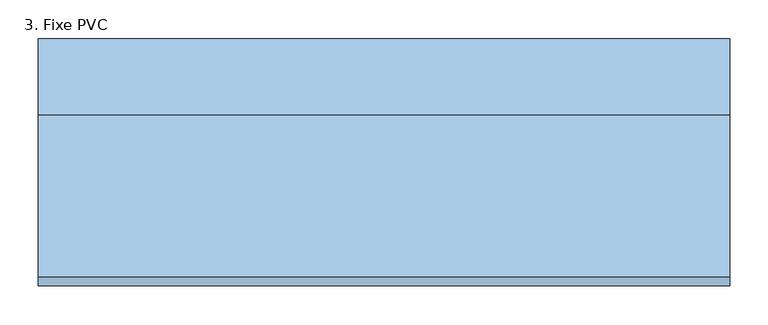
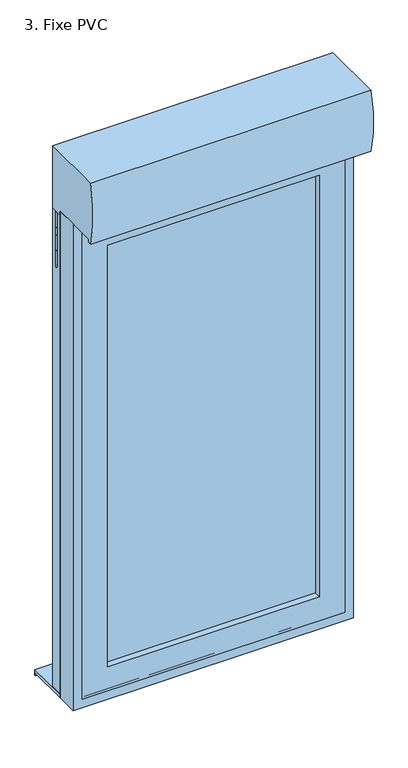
"""IFC4 building model written with IfcOpenShell, lengths in millimetres: window geometry, 3. Fixe PVC : OF3 260X165 (LXH) cm."""

from ifc_helpers import new_model, si_unit, point, frame, frame_2d, origin, place, context, project, spatial, polyline, circle_curve, trimmed, segment, composite_curve, outline, extrude, faceted_brep, source, transform, mapped, element, save


def window_3_fixe_pvc_f0c6ea6f(model_context):
    return source(origin(), model_context, "Body", "SolidModel", [
        faceted_brep([(-450.0, -100.02, 2450.0), (-450.0, -28.9, 2450.0), (-450.0, -28.9, 800.0), (-450.0, -100.02, 800.0), (450.0, -28.9, 2450.0), (450.0, -28.9, 800.0), (-392.0983858, -28.9, 857.9016142), (392.0983858, -28.9, 857.9016142), (392.0983858, -28.9, 2392.0983858), (-392.0983858, -28.9, 2392.0983858), (450.0, -100.02, 800.0), (450.0, -100.02, 2450.0), (-413.424, -100.02, 2413.424), (413.424, -100.02, 2413.424), (413.424, -100.02, 836.576), (-413.424, -100.02, 836.576), (-413.424, -44.648, 2413.424), (-413.424, -44.648, 836.576), (413.424, -44.648, 836.576), (413.424, -44.648, 2413.424), (-392.0983858, -44.648, 2392.0983858), (392.0983858, -44.648, 2392.0983858), (392.0983858, -44.648, 857.9016142), (-392.0983858, -44.648, 857.9016142)], [[[0, 1, 2, 3]], [[1, 4, 5, 2], [6, 7, 8, 9]], [[3, 2, 5, 10]], [[3, 10, 11, 0], [12, 13, 14, 15]], [[16, 12, 15, 17]], [[17, 15, 14, 18]], [[17, 18, 19, 16], [20, 21, 22, 23]], [[9, 20, 23, 6]], [[6, 23, 22, 7]], [[10, 5, 4, 11]], [[18, 14, 13, 19]], [[7, 22, 21, 8]], [[11, 4, 1, 0]], [[19, 13, 12, 16]], [[8, 21, 20, 9]]]),
        extrude(outline(composite_curve([segment(polyline([(-186.3991192, 2440.3409737), (-197.3316724, 2440.3409737)]), True, "CONTINUOUS"), segment(trimmed(circle_curve(frame_2d((189.1050523, 2543.6204869)), 400.0), [point((-197.3316724, 2440.3409737))], [point((-197.3316724, 2646.9))], False, "CARTESIAN"), True, "CONTINUOUS"), segment(polyline([(-197.3316724, 2646.9), (13.0999994, 2646.9), (13.0999994, 2436.0216226), (-4.9499979, 2436.0216226), (-4.9499979, 2434.2216225), (-2.7215215, 2434.2216225), (-2.7215215, 2409.9791617), (-4.9499979, 2409.9791617), (-4.9499979, 2408.1791616), (-2.7215215, 2408.1791616), (-2.7215215, 2383.9367008), (-4.9499979, 2383.9367008), (-4.9499979, 2382.1367006), (-2.7215215, 2382.1367006), (-2.7215215, 2357.8942398), (-4.9499979, 2357.8942398), (-4.9499979, 2356.0942397), (-2.7215215, 2356.0942397), (-2.7215215, 2331.8517789), (-4.9499979, 2331.8517789), (-4.9499979, 2330.0517788), (-2.7215215, 2330.0517788), (-2.7215215, 2305.809318), (-4.9499979, 2305.809318), (-4.9499979, 2304.0093179), (-2.7215215, 2304.0093179), (-2.7215215, 2279.7668571), (-4.9499979, 2279.7668571), (-4.9499979, 2277.966857), (-2.7215215, 2277.966857), (-2.7215215, 2253.7243961), (-4.9499979, 2253.7243961), (-4.9499979, 2251.9243963), (-3.044091, 2251.9243963), (-3.044091, 2248.977424), (-6.4, 2245.6232688), (-9.8999992, 2248.9774251), (-9.8999992, 2251.9243963), (-7.7499979, 2251.9243963), (-7.7499979, 2253.7243961), (-9.9999979, 2253.7243961), (-9.9999979, 2277.9668572), (-7.7499979, 2277.9668572), (-7.7499979, 2279.7668571), (-9.9999979, 2279.7668571), (-9.9999979, 2304.0093181), (-7.7499979, 2304.0093181), (-7.7499979, 2305.809318), (-9.9999979, 2305.809318), (-9.9999979, 2330.051779), (-7.7499979, 2330.051779), (-7.7499979, 2331.8517789), (-9.9999979, 2331.8517789), (-9.9999979, 2356.09424), (-7.7499979, 2356.09424), (-7.7499979, 2357.8942398), (-9.9999979, 2357.8942398), (-9.9999979, 2382.1367009), (-7.7499979, 2382.1367009), (-7.7499979, 2383.9367008), (-9.9999979, 2383.9367008), (-9.9999979, 2408.1791618), (-7.7499979, 2408.1791618), (-7.7499979, 2409.9791617), (-9.9999979, 2409.9791617), (-9.9999979, 2434.2216227), (-7.7499979, 2434.2216227), (-7.7499979, 2436.0216226), (-28.9, 2436.0216226), (-28.9, 2450.0), (-186.3991192, 2450.0), (-186.3991192, 2440.3409737)]), True, "CONTINUOUS")], self_intersect=False)), frame((-450.0, 0.0, 0.0), z_axis=(1.0, 0.0, 0.0), x_axis=(0.0, 1.0, 0.0)), (0.0, 0.0, 1.0), 900.0),
        extrude(outline(polyline([(110.0, 800.0), (-28.9, 800.0), (-28.9, 813.0), (113.0, 809.772555), (113.0, 790.0), (110.0, 790.0), (110.0, 800.0)])), frame((-450.0, 0.0, 0.0), z_axis=(1.0, 0.0, 0.0), x_axis=(0.0, 1.0, 0.0)), (0.0, 0.0, 1.0), 900.0),
        extrude(outline(polyline([(353.4, -75.613906), (353.4, -79.613906), (-353.4, -79.613906), (-353.4, -75.613906), (353.4, -75.613906)])), frame((0.0, 0.0, 896.5824883), z_axis=(0.0, 0.0, 1.0), x_axis=(1.0, 0.0, 0.0)), (0.0, 0.0, 1.0), 1456.8350233),
        extrude(outline(polyline([(353.4, -51.613906), (353.4, -55.613906), (-353.4, -55.613906), (-353.4, -51.613906), (353.4, -51.613906)])), frame((0.0, 0.0, 896.5824883), z_axis=(0.0, 0.0, 1.0), x_axis=(1.0, 0.0, 0.0)), (0.0, 0.0, 1.0), 1456.8350233),
        faceted_brep([(-392.0983858, -44.648, 2392.0983858), (-392.0983858, -28.9, 2392.0983858), (-392.0983858, -28.9, 857.9016142), (-392.0983858, -44.648, 857.9016142), (392.1063858, -28.9, 857.9016142), (392.1063858, -44.648, 857.9016142), (392.1063858, -28.9, 2392.0983858), (339.5320492, -28.9, 910.4759508), (339.5320492, -28.9, 2339.5240492), (-339.5240492, -28.9, 2339.5240492), (-339.5240492, -28.9, 910.4759508), (392.1063858, -44.648, 2392.0983858), (-421.552, -44.648, 828.448), (-421.552, -44.648, 2421.552), (421.56, -44.648, 2421.552), (421.56, -44.648, 828.448), (421.56, -100.963906, 828.448), (-421.552, -100.963906, 828.448), (421.56, -100.963906, 2421.552), (-421.552, -100.963906, 2421.552), (-339.5240492, -100.963906, 910.4759508), (-339.5240492, -100.963906, 2339.5240492), (339.5320492, -100.963906, 2339.5240492), (339.5320492, -100.963906, 910.4759508), (-353.4175117, -75.613906, 2353.4175117), (-353.4175117, -79.613906, 2353.4175117), (-353.4175117, -79.613906, 896.5824883), (-353.4175117, -75.613906, 896.5824883), (353.4255117, -79.613906, 896.5824883), (353.4255117, -75.613906, 896.5824883), (353.4255117, -79.613906, 2353.4175117), (339.5320492, -79.613906, 910.4759508), (339.5320492, -79.613906, 2339.5240492), (-339.5240492, -79.613906, 2339.5240492), (-339.5240492, -79.613906, 910.4759508), (353.4255117, -75.613906, 2353.4175117), (-339.5240492, -75.613906, 910.4759508), (-339.5240492, -75.613906, 2339.5240492), (339.5320492, -75.613906, 2339.5240492), (339.5320492, -75.613906, 910.4759508), (-339.5240492, -51.6189315, 2339.5240492), (-339.5240492, -51.6189315, 910.4759508), (339.5320492, -51.6189315, 910.4759508), (353.4255117, -51.6189315, 896.5824883), (353.4255117, -51.6189315, 2353.4175117), (-353.4175117, -51.6189315, 2353.4175117), (-353.4175117, -51.6189315, 896.5824883), (339.5320492, -51.6189315, 2339.5240492), (-339.5240492, -55.613906, 2339.5240492), (-339.5240492, -55.613906, 910.4759508), (339.5320492, -55.613906, 910.4759508), (339.5320492, -55.613906, 2339.5240492), (-353.4175117, -55.613906, 896.5824883), (-353.4175117, -55.613906, 2353.4175117), (353.4255117, -55.613906, 2353.4175117), (353.4255117, -55.613906, 896.5824883)], [[[0, 1, 2, 3]], [[3, 2, 4, 5]], [[2, 1, 6, 4], [7, 8, 9, 10]], [[5, 4, 6, 11]], [[12, 13, 14, 15], [5, 11, 0, 3]], [[12, 15, 16, 17]], [[16, 15, 14, 18]], [[16, 18, 19, 17], [20, 21, 22, 23]], [[19, 13, 12, 17]], [[24, 25, 26, 27]], [[27, 26, 28, 29]], [[26, 25, 30, 28], [31, 32, 33, 34]], [[29, 28, 30, 35]], [[29, 35, 24, 27], [36, 37, 38, 39]], [[33, 21, 20, 34]], [[34, 20, 23, 31]], [[31, 23, 22, 32]], [[9, 40, 41, 10]], [[10, 41, 42, 7]], [[43, 44, 45, 46], [41, 40, 47, 42]], [[7, 42, 47, 8]], [[48, 37, 36, 49]], [[49, 36, 39, 50]], [[50, 39, 38, 51]], [[52, 53, 54, 55], [50, 51, 48, 49]], [[45, 53, 52, 46]], [[46, 52, 55, 43]], [[43, 55, 54, 44]], [[11, 6, 1, 0]], [[18, 14, 13, 19]], [[35, 30, 25, 24]], [[32, 22, 21, 33]], [[8, 47, 40, 9]], [[51, 38, 37, 48]], [[44, 54, 53, 45]]]),
        extrude(outline(polyline([(-449.0, 13.0999994), (-449.0, 2.0999994), (-429.0, 2.0999994), (-429.0, -0.9000006), (-449.0, -0.9000006), (-449.0, -11.9000006), (-429.0, -11.9000006), (-429.0, -14.9000006), (-449.0, -14.9000006), (-449.0, -28.9000006), (-450.0, -28.9000006), (-450.0, 13.0999994), (-449.0, 13.0999994)])), frame((0.0, 0.0, 813.0), z_axis=(0.0, 0.0, 1.0), x_axis=(1.0, 0.0, 0.0)), (0.0, 0.0, 1.0), 1623.0216226),
        extrude(outline(polyline([(449.0, 13.0999994), (450.0, 13.0999994), (450.0, -28.9000006), (449.0, -28.9000006), (449.0, -14.9000006), (429.0, -14.9000006), (429.0, -11.9000006), (449.0, -11.9000006), (449.0, -0.9000006), (429.0, -0.9000006), (429.0, 2.0999994), (449.0, 2.0999994), (449.0, 13.0999994)])), frame((0.0, 0.0, 813.0), z_axis=(0.0, 0.0, 1.0), x_axis=(1.0, 0.0, 0.0)), (0.0, 0.0, 1.0), 1623.0216226),
    ])


if __name__ == "__main__":
    model = new_model("IFC4")
    model_context = context("Model", 3, world=origin())
    ifc_project = project(units=[si_unit("LENGTHUNIT", "METRE", prefix="MILLI")], contexts=[model_context])
    site = spatial("IfcSite", under=ifc_project)
    building = spatial("IfcBuilding", under=site)
    placement = place(None, origin())
    window_3_fixe_pvc_shape = window_3_fixe_pvc_f0c6ea6f(model_context)
    element("IfcWindow", 1, ObjectType="3. Fixe PVC : OF3 260X165 (LXH) cm", at=placement, inside=building, context=model_context, shape_type="MappedRepresentation", body=[
        mapped(window_3_fixe_pvc_shape, transform((0.0, 0.0, 0.0), x_axis=(1.0, 0.0, 0.0), y_axis=(0.0, 1.0, 0.0), z_axis=(0.0, 0.0, 1.0))),
    ])
    save(model, "model.ifc")
